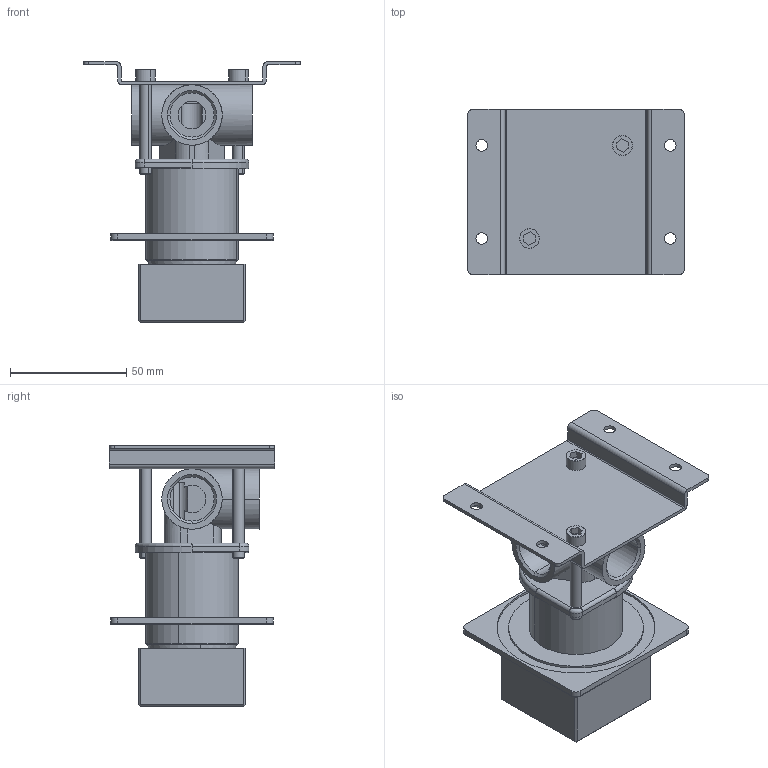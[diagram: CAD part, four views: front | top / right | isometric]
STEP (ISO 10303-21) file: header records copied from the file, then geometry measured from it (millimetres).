
FILE_DESCRIPTION (( 'STEP AP203' ), '1' );
FILE_NAME ('ED2Q.STEP', '2023-12-04T10:40:58', ( '' ), ( '' ), 'SwSTEP 2.0', 'SolidWorks 2021', '' );
FILE_SCHEMA (( 'CONFIG_CONTROL_DESIGN' ));
Length unit declared in the file: millimetre
Products named in the file (13): C47.00.0023.01; ED2Q; C24.2018.00.0; C10.00.0011; C11.14.0009; C31.00.0006.01; C12.00.0036; C47.00.0015; C50.00.0038.00; C25.1081.00.0_DefaultSviluppo; C11.10.0022; C24.1837.00.0; C24.2665.00
Assembly tree (13 placements, depth 2):
  ED2Q
    C10.00.0011
    C50.00.0038.00
    C47.00.0015
    C25.1081.00.0_DefaultSviluppo
    C11.10.0022  x2
    C24.1837.00.0
    C31.00.0006.01
    C24.2665.00
    C12.00.0036
    C24.2018.00.0
    C11.14.0009
    C47.00.0023.01
Bounding box: 93 x 71 x 112.2 mm (x, y, z)
Volume: 125658.4 mm3; surface area: 81557 mm2
Topology: 13 solids, 13 shells, 461 faces, 1071 edges, 667 vertices
Faces by surface type: plane 189, cylinder 171, cone 59, torus 36, bspline 6
Entity records: 14630 total; most frequent: CARTESIAN_POINT 2861, DIRECTION 2330, ORIENTED_EDGE 2050, EDGE_CURVE 1025, AXIS2_PLACEMENT_3D 925, VERTEX_POINT 641, EDGE_LOOP 508, VECTOR 480
